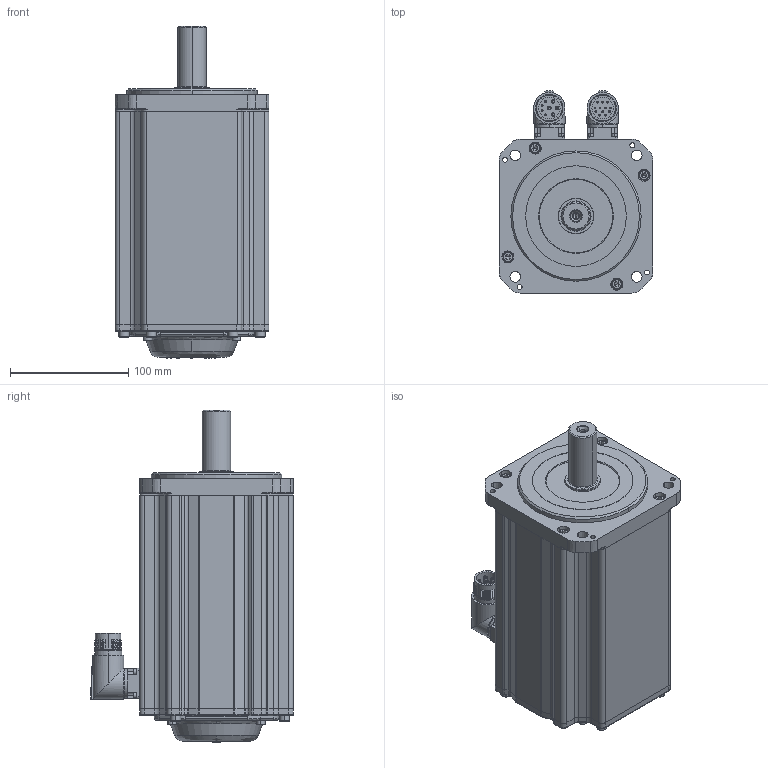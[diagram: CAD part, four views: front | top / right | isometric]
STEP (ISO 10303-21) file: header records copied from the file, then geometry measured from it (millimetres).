
FILE_DESCRIPTION (( 'STEP AP203' ), '1' );
FILE_NAME ('MC20-130-3M20-N252-1¡õPL-NNNN.STEP', '2025-07-29T15:05:19', ( '' ), ( '' ), 'SwSTEP 2.0', 'SolidWorks 2014', '' );
FILE_SCHEMA (( 'CONFIG_CONTROL_DESIGN' ));
Products named in the file (1): MC20-130-3M20-N252-1¡õPL-NNNN
Bounding box: 130 x 171.35 x 280.3 mm (x, y, z)
Volume: 3247906.6 mm3; surface area: 300346.5 mm2
Topology: 28 solids, 28 shells, 2022 faces, 4794 edges, 2857 vertices
Faces by surface type: plane 733, cylinder 567, cone 358, bspline 204, torus 148, sphere 12
Entity records: 62107 total; most frequent: CARTESIAN_POINT 16808, DIRECTION 9523, ORIENTED_EDGE 9364, EDGE_CURVE 4682, AXIS2_PLACEMENT_3D 3694, VERTEX_POINT 2857, EDGE_LOOP 2269, VECTOR 2135
